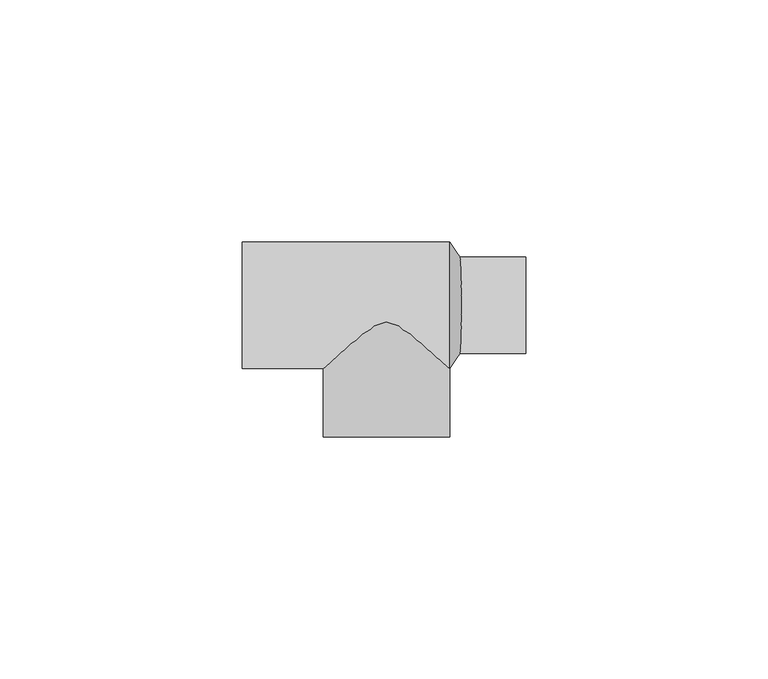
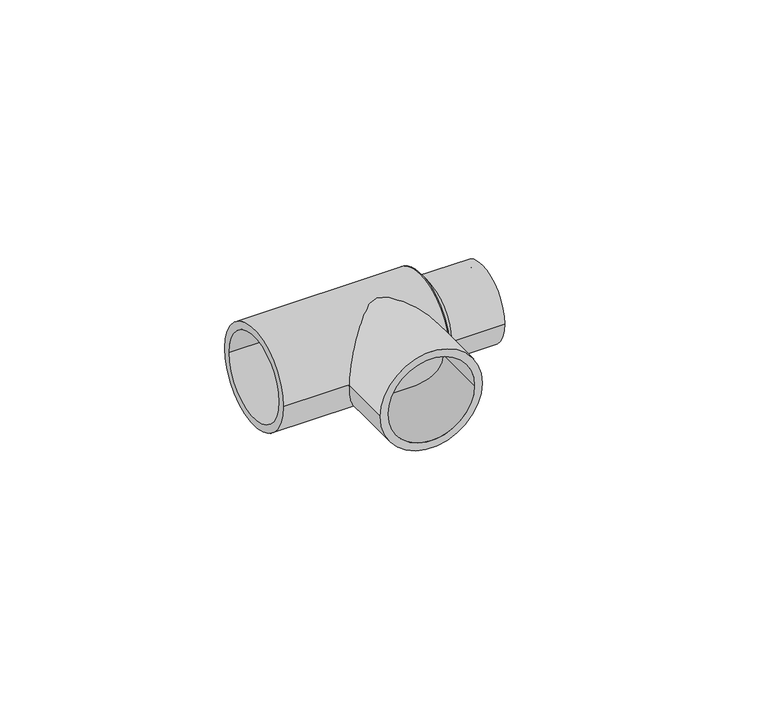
"""IFC4 building model written with IfcOpenShell, lengths in millimetres: pipe fitting geometry, Te Reducida _Lubrizol_CPVC-FlowGuard_MX 19mm x 13mm x19mm : Te Reducida _Lubrizol_CPVC-FlowGuard_MX 19mm x 13mm x19mm."""

import ifcopenshell
import ifcopenshell.guid

model = None  # the IFC model being written
_history = None  # IfcOwnerHistory: only IFC2X3 demands one
_inside = {}  # id of a spatial element -> (the spatial element, [elements in it])
_under = {}  # id of a project, library or spatial element -> (it, [spatial elements below it])
_declared = {}  # id of a project -> (the project, [libraries it declares])
_typed = {}  # id of a type object -> (the type object, [elements of that type])
_made_of = {}  # id of a material, layer set ... -> (it, [elements and type objects made of it])


def new_model(schema):
    """Start an empty IFC model of exactly this schema.

    Asked for "IFC4X3", IfcOpenShell would pick the latest addendum, in which some entities
    have other attributes; the version numbers below select the first issue.
    IFC2X3 requires an IfcOwnerHistory on every rooted entity: one is made here for all.
    """
    global model, _history
    if schema == "IFC4X3":
        model = ifcopenshell.file(schema_version=(4, 3, 0, 0))
    else:
        model = ifcopenshell.file(schema=schema)
    _inside.clear()
    _under.clear()
    _declared.clear()
    _typed.clear()
    _made_of.clear()
    _history = None
    if model.schema == "IFC2X3":
        org = make("IfcOrganization", Name="unknown")
        user = make(
            "IfcPersonAndOrganization",
            ThePerson=make("IfcPerson", FamilyName="unknown"),
            TheOrganization=org,
        )
        app = make(
            "IfcApplication",
            ApplicationDeveloper=org,
            Version="unknown",
            ApplicationFullName="unknown",
            ApplicationIdentifier="unknown",
        )
        _history = make(
            "IfcOwnerHistory",
            OwningUser=user,
            OwningApplication=app,
            ChangeAction="ADDED",
            CreationDate=0,
        )
    return model


def make(cls, **values):
    """One entity of the class cls with the attributes given. An attribute that is None is left unset."""
    return model.create_entity(
        cls, **{name: value for name, value in values.items() if value is not None}
    )


def rooted(cls, **values):
    """An entity with a GlobalId (a new one), such as an element, a storey or a relation."""
    return make(cls, GlobalId=ifcopenshell.guid.new(), OwnerHistory=_history, **values)


def si_unit(unit_type, name, prefix=None):
    """IfcSIUnit, for example si_unit("LENGTHUNIT", "METRE", prefix="MILLI")."""
    return make("IfcSIUnit", UnitType=unit_type, Prefix=prefix, Name=name)


def assignment(units):
    """IfcUnitAssignment: the units of a project."""
    return None if units is None else make("IfcUnitAssignment", Units=units)


def point(xyz):
    """IfcCartesianPoint."""
    return None if xyz is None else make("IfcCartesianPoint", Coordinates=xyz)


def direction(xyz):
    """IfcDirection."""
    return None if xyz is None else make("IfcDirection", DirectionRatios=xyz)


def frame(location, z_axis=None, x_axis=None):
    """IfcAxis2Placement3D, a coordinate frame: its origin and axes. An axis left out is left unset."""
    return make(
        "IfcAxis2Placement3D",
        Location=point(location),
        Axis=direction(z_axis),
        RefDirection=direction(x_axis),
    )


def frame_2d(location, x_axis=None):
    """IfcAxis2Placement2D, a coordinate frame in the plane: its origin and x axis."""
    return make(
        "IfcAxis2Placement2D", Location=point(location), RefDirection=direction(x_axis)
    )


def origin():
    """The frame at (0, 0, 0) with its axes left unset."""
    return frame((0.0, 0.0, 0.0))


def origin_2d():
    """The frame at (0, 0) in the plane with its x axis left unset."""
    return frame_2d((0.0, 0.0))


def place(relative_to, where):
    """IfcLocalPlacement: puts the frame where relative to a parent placement (None: the world)."""
    return make(
        "IfcLocalPlacement", PlacementRelTo=relative_to, RelativePlacement=where
    )


def context(
    kind, dimensions, precision=None, world=None, true_north=None, identifier=None
):
    """IfcGeometricRepresentationContext, for example the 3D "Model" context."""
    return make(
        "IfcGeometricRepresentationContext",
        ContextIdentifier=identifier,
        ContextType=kind,
        CoordinateSpaceDimension=dimensions,
        Precision=precision,
        WorldCoordinateSystem=world,
        TrueNorth=true_north,
    )


def project(units=None, contexts=None):
    """IfcProject with its units and contexts."""
    return rooted(
        "IfcProject",
        Name="project",
        RepresentationContexts=contexts,
        UnitsInContext=assignment(units),
    )


def spatial(cls, under=None, at=None, **own):
    """A site, building, storey or space (cls), placed at a placement, below another one or the project."""
    s = rooted(cls, ObjectPlacement=at, **own)
    if under is not None:
        _under.setdefault(under.id(), (under, []))[1].append(s)
    return s


def polyline(points):
    """IfcPolyline through the points."""
    return make("IfcPolyline", Points=[point(p) for p in points])


def circle_curve(where, radius):
    """IfcCircle in the frame where."""
    return make("IfcCircle", Position=where, Radius=radius)


def trimmed(basis, trim1, trim2, sense, master):
    """IfcTrimmedCurve: the piece of a basis curve between two trims."""
    return make(
        "IfcTrimmedCurve",
        BasisCurve=basis,
        Trim1=trim1,
        Trim2=trim2,
        SenseAgreement=sense,
        MasterRepresentation=master,
    )


def segment(curve, same_sense, transition):
    """IfcCompositeCurveSegment."""
    return make(
        "IfcCompositeCurveSegment",
        Transition=transition,
        SameSense=same_sense,
        ParentCurve=curve,
    )


def composite_curve(segments, self_intersect=None):
    """IfcCompositeCurve: segments joined end to end."""
    return make("IfcCompositeCurve", Segments=segments, SelfIntersect=self_intersect)


def outline(outer, holes=None, kind="AREA"):
    """IfcArbitraryClosedProfileDef: a profile drawn as a closed curve; with holes, ...WithVoids."""
    if holes is None:
        return make("IfcArbitraryClosedProfileDef", ProfileType=kind, OuterCurve=outer)
    return make(
        "IfcArbitraryProfileDefWithVoids",
        ProfileType=kind,
        OuterCurve=outer,
        InnerCurves=holes,
    )


def extrude(swept, where, along, depth):
    """IfcExtrudedAreaSolid: the profile swept, set in the frame where, extruded along a direction by depth."""
    return make(
        "IfcExtrudedAreaSolid",
        SweptArea=swept,
        Position=where,
        ExtrudedDirection=direction(along),
        Depth=depth,
    )


def shape(context_of_items, identifier, shape_type, items):
    """IfcShapeRepresentation: the items that make up one representation, for example the "Body"."""
    return make(
        "IfcShapeRepresentation",
        ContextOfItems=context_of_items,
        RepresentationIdentifier=identifier,
        RepresentationType=shape_type,
        Items=items,
    )


def source(mapping_origin, context_of_items, identifier, shape_type, items):
    """IfcRepresentationMap: a shape defined once, which mapped items show again and again."""
    return make(
        "IfcRepresentationMap",
        MappingOrigin=mapping_origin,
        MappedRepresentation=shape(context_of_items, identifier, shape_type, items),
    )


def transform(
    local_origin,
    x_axis=None,
    y_axis=None,
    z_axis=None,
    scale=None,
    scale2=None,
    scale3=None,
    uniform=True,
):
    """IfcCartesianTransformationOperator3D, or its non-uniform kind. x_axis, y_axis, z_axis: its Axis1, 2, 3."""
    if uniform:
        return make(
            "IfcCartesianTransformationOperator3D",
            Axis1=direction(x_axis),
            Axis2=direction(y_axis),
            LocalOrigin=point(local_origin),
            Scale=scale,
            Axis3=direction(z_axis),
        )
    return make(
        "IfcCartesianTransformationOperator3DnonUniform",
        Axis1=direction(x_axis),
        Axis2=direction(y_axis),
        LocalOrigin=point(local_origin),
        Scale=scale,
        Axis3=direction(z_axis),
        Scale2=scale2,
        Scale3=scale3,
    )


def mapped(mapping_source, mapping_target):
    """IfcMappedItem: shows the shape of a source again, moved by a transform."""
    return make(
        "IfcMappedItem", MappingSource=mapping_source, MappingTarget=mapping_target
    )


def made_of(thing, what):
    """Note that an element or type object is made of a material, layer set ...; save() writes the relation."""
    if what is not None:
        _made_of.setdefault(what.id(), (what, []))[1].append(thing)
    return thing


def element(
    cls,
    number,
    at=None,
    inside=None,
    cuts=None,
    type_object=None,
    material=None,
    context=None,
    identifier="Body",
    shape_type=None,
    held_by="IfcProductDefinitionShape",
    body=None,
    shapes=None,
    **own,
):
    """One element of the class cls, such as IfcWall. Its Tag is "e" and its number.

    at: its placement. inside: the storey or other place that contains it. cuts: it is an
    opening in that element (IfcRelVoidsElement). A single representation is given by context,
    identifier, shape_type and body (its items); several are given by shapes. held_by: the class
    of the entity that holds the representations. save() writes the other relations.
    """
    e = rooted(cls, Tag="e%d" % number, ObjectPlacement=at, **own)
    if body is not None:
        shapes = [shape(context, identifier, shape_type, body)]
    if shapes is not None:
        e.Representation = make(held_by, Representations=shapes)
    if inside is not None:
        _inside.setdefault(inside.id(), (inside, []))[1].append(e)
    if cuts is not None:
        rooted(
            "IfcRelVoidsElement", RelatingBuildingElement=cuts, RelatedOpeningElement=e
        )
    if type_object is not None:
        _typed.setdefault(type_object.id(), (type_object, []))[1].append(e)
    return made_of(e, material)


def aggregate(whole, parts):
    """IfcRelAggregates: a whole, such as a stair, and the parts it consists of."""
    return rooted("IfcRelAggregates", RelatingObject=whole, RelatedObjects=parts)


def save(model, path):
    """Write the relations noted so far, then the file.

    IfcRelAggregates (storeys below a building ...), IfcRelContainedInSpatialStructure (elements
    in a storey), IfcRelDefinesByType, IfcRelAssociatesMaterial and IfcRelDeclares: one each for
    every whole, place, type object, material and project.
    """
    for whole, parts in _under.values():
        aggregate(whole, parts)
    for where, things in _inside.values():
        rooted(
            "IfcRelContainedInSpatialStructure",
            RelatedElements=things,
            RelatingStructure=where,
        )
    for kind, things in _typed.values():
        rooted("IfcRelDefinesByType", RelatedObjects=things, RelatingType=kind)
    for what, things in _made_of.values():
        rooted("IfcRelAssociatesMaterial", RelatedObjects=things, RelatingMaterial=what)
    for by, libraries in _declared.values():
        rooted("IfcRelDeclares", RelatingContext=by, RelatedDefinitions=libraries)
    model.write(path)


def plane_surface(at):
    """IfcPlane: the flat surface through the origin of the frame at, square to its z axis."""
    return make("IfcPlane", Position=at)


def revolved_surface(curve, axis_point, axis_direction):
    """IfcSurfaceOfRevolution: the curve turned about the line through axis_point along axis_direction."""
    return make(
        "IfcSurfaceOfRevolution",
        SweptCurve=make("IfcArbitraryOpenProfileDef", ProfileType="CURVE", Curve=curve),
        AxisPosition=make("IfcAxis1Placement", Location=point(axis_point), Axis=direction(axis_direction)),
    )


def advanced_brep(points, edges, surfaces, faces):
    """IfcAdvancedBrep: a solid bounded by faces that lie on surfaces and meet in shared edges.

    An edge is (start, end): straight between two places in points (the first is 0);
    or (start, end, curve); or (start, end, curve, False) where it runs against its curve.
    A face is (place in surfaces, loops), or (place, loops, False) where it looks against
    its surface's normal. A loop lists edges by number (the first is 1), with a minus sign
    where the edge is run from its end to its start. The first loop is the outer one.
    """
    corners = [point(p) for p in points]
    vertices = [make("IfcVertexPoint", VertexGeometry=c) for c in corners]
    made = []
    for start, end, *more in edges:
        made.append(
            make(
                "IfcEdgeCurve",
                EdgeStart=vertices[start],
                EdgeEnd=vertices[end],
                EdgeGeometry=more[0] if more else make("IfcPolyline", Points=[corners[start], corners[end]]),
                SameSense=more[1] if len(more) > 1 else True,
            )
        )
    hull = []
    for where, loops, *sense in faces:
        bounds = []
        for j, loop in enumerate(loops):
            ring = [make("IfcOrientedEdge", EdgeElement=made[abs(k) - 1], Orientation=k > 0) for k in loop]
            bounds.append(
                make(
                    "IfcFaceOuterBound" if j == 0 else "IfcFaceBound",
                    Bound=make("IfcEdgeLoop", EdgeList=ring),
                    Orientation=True,
                )
            )
        hull.append(make("IfcAdvancedFace", Bounds=bounds, FaceSurface=surfaces[where], SameSense=sense[0] if sense else True))
    return make("IfcAdvancedBrep", Outer=make("IfcClosedShell", CfsFaces=hull))


def pipe_fitting_28769ad7(model_context):
    return source(origin(), model_context, "Body", "SolidModel", [
        advanced_brep(
        [(46.3253272, 8.0, 0.0), (46.3253272, -8.0, 0.0), (42.9219713, 13.1, 0.0), (42.9219713, -13.1, 0.0)],
        [
            (0, 1, circle_curve(frame((46.3253272, 0.0, 0.0), z_axis=(1.0, 0.0, 0.0), x_axis=(0.0, 1.0, 0.0)), 8.0)),
            (1, 0, circle_curve(frame((46.3253272, 0.0, 0.0), z_axis=(1.0, 0.0, 0.0), x_axis=(0.0, -1.0, 0.0)), 8.0)),
            (2, 3, circle_curve(frame((42.9219713, 0.0, 0.0), z_axis=(-1.0, 0.0, 0.0), x_axis=(0.0, -1.0, 0.0)), 13.1)),
            (3, 2, circle_curve(frame((42.9219713, 0.0, 0.0), z_axis=(-1.0, 0.0, 0.0), x_axis=(0.0, 1.0, 0.0)), 13.1)),
            (3, 1),
            (0, 2),
        ],
        [
            plane_surface(frame((46.3253272, 0.0, 0.0), z_axis=(1.0, 0.0, 0.0), x_axis=(0.0, 0.0, 1.0))),
            plane_surface(frame((42.9219713, 0.0, 0.0), z_axis=(-1.0, 0.0, 0.0), x_axis=(0.0, 0.0, 1.0))),
            revolved_surface(polyline([(46.3253272, 8.000000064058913, 0.0), (42.9219713, 13.1, 0.0)]), (51.6639248, 0.0, 0.0), (-1.0, 0.0, 0.0)),
            revolved_surface(polyline([(46.3253272, -8.000000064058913, 0.0), (42.9219713, -13.1, 0.0)]), (51.6639248, 0.0, 0.0), (-1.0, 0.0, 0.0)),
        ],
        [
            (0, [[1, 2]]),
            (1, [[3, 4]]),
            (2, [[-4, 5, -1, 6]]),
            (3, [[-3, -6, -2, -5]]),
        ],
    ),
        extrude(outline(composite_curve([segment(trimmed(circle_curve(origin_2d(), 10.0), [point((10.0, 0.0))], [point((-10.0, 0.0))], False, "CARTESIAN"), True, "CONTINUOUS"), segment(trimmed(circle_curve(origin_2d(), 10.0), [point((-10.0, 0.0))], [point((10.0, 0.0))], False, "CARTESIAN"), True, "CONTINUOUS")], self_intersect=False), holes=[composite_curve([segment(trimmed(circle_curve(origin_2d(), 8.0), [point((8.0, 0.0))], [point((-8.0, 0.0))], True, "CARTESIAN"), True, "CONTINUOUS"), segment(trimmed(circle_curve(origin_2d(), 8.0), [point((-8.0, 0.0))], [point((8.0, 0.0))], True, "CARTESIAN"), True, "CONTINUOUS")], self_intersect=False)]), frame((44.7938171, 0.0, 0.0), z_axis=(1.0, 0.0, 0.0), x_axis=(0.0, 1.0, 0.0)), (0.0, 0.0, 1.0), 13.8715507),
        extrude(outline(composite_curve([segment(trimmed(circle_curve(origin_2d(), 13.1), [point((13.1, 0.0))], [point((-13.1, 0.0))], False, "CARTESIAN"), True, "CONTINUOUS"), segment(trimmed(circle_curve(origin_2d(), 13.1), [point((-13.1, 0.0))], [point((13.1, 0.0))], False, "CARTESIAN"), True, "CONTINUOUS")], self_intersect=False), holes=[composite_curve([segment(trimmed(circle_curve(origin_2d(), 11.1), [point((11.1, 0.0))], [point((-11.1, 0.0))], True, "CARTESIAN"), True, "CONTINUOUS"), segment(trimmed(circle_curve(origin_2d(), 11.1), [point((-11.1, 0.0))], [point((11.1, 0.0))], True, "CARTESIAN"), True, "CONTINUOUS")], self_intersect=False)]), frame((0.0, 0.0, 0.0), z_axis=(1.0, 0.0, 0.0), x_axis=(0.0, 1.0, 0.0)), (0.0, 0.0, 1.0), 42.9219713),
        extrude(outline(composite_curve([segment(trimmed(circle_curve(frame_2d((-0.0271666, 29.8304508)), 13.1), [point((-0.0271666, 16.7304508))], [point((-0.0271666, 42.9304508))], False, "CARTESIAN"), True, "CONTINUOUS"), segment(trimmed(circle_curve(frame_2d((-0.0271666, 29.8304508)), 13.1), [point((-0.0271666, 42.9304508))], [point((-0.0271666, 16.7304508))], False, "CARTESIAN"), True, "CONTINUOUS")], self_intersect=False), holes=[composite_curve([segment(trimmed(circle_curve(frame_2d((-0.0271666, 29.8304508)), 11.1), [point((-0.0271666, 18.7304508))], [point((-0.0271666, 40.9304508))], True, "CARTESIAN"), True, "CONTINUOUS"), segment(trimmed(circle_curve(frame_2d((-0.0271666, 29.8304508)), 11.1), [point((-0.0271666, 40.9304508))], [point((-0.0271666, 18.7304508))], True, "CARTESIAN"), True, "CONTINUOUS")], self_intersect=False)]), frame((0.0, -27.2717168, 0.0), z_axis=(0.0, 1.0, 0.0), x_axis=(0.0, 0.0, 1.0)), (0.0, 0.0, 1.0), 27.2717168),
    ])


if __name__ == "__main__":
    model = new_model("IFC4")
    model_context = context("Model", 3, world=origin())
    ifc_project = project(units=[si_unit("LENGTHUNIT", "METRE", prefix="MILLI")], contexts=[model_context])
    site = spatial("IfcSite", under=ifc_project)
    building = spatial("IfcBuilding", under=site)
    placement = place(None, origin())
    pipe_fitting_shape = pipe_fitting_28769ad7(model_context)
    element("IfcPipeFitting", 1, ObjectType="Te Reducida _Lubrizol_CPVC-FlowGuard_MX 19mm x 13mm x19mm : Te Reducida _Lubrizol_CPVC-FlowGuard_MX 19mm x 13mm x19mm", at=placement, inside=building, context=model_context, shape_type="MappedRepresentation", body=[
        mapped(pipe_fitting_shape, transform((0.0, 0.0, 0.0), x_axis=(1.0, 0.0, 0.0), y_axis=(0.0, 1.0, 0.0), z_axis=(0.0, 0.0, 1.0))),
    ])
    save(model, "model.ifc")
